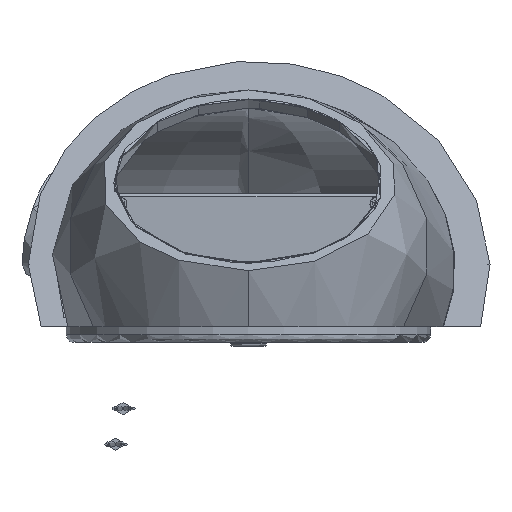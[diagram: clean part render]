
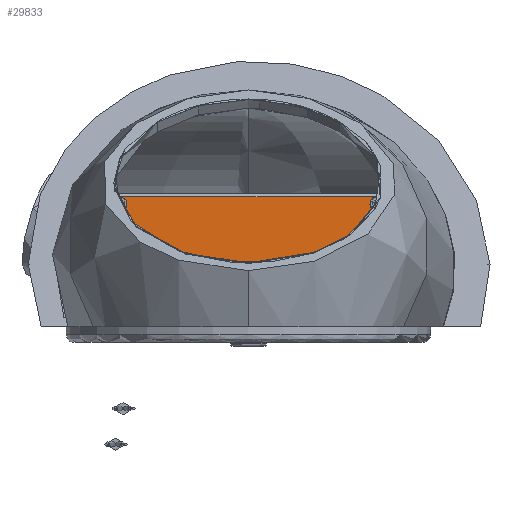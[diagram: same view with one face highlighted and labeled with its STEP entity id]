
A CAD part, front view. The second image highlights one B-rep face of the part: STEP entity #29833.
In plain terms, the highlighted planar face has unit normal (0, -1, 0) as drawn and (0, 1, 0) by its records, which use the part's own axes.
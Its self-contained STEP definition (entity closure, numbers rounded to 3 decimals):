
#2457 = DIRECTION ( 'NONE',  ( 1., 0., 0. ) ) ;
#3783 = ORIENTED_EDGE ( 'NONE', *, *, #50985, .T. ) ;
#3847 = CARTESIAN_POINT ( 'NONE',  ( 49.2, 3., -28.95 ) ) ;
#4608 = EDGE_LOOP ( 'NONE', ( #47868, #16635 ) ) ;
#5193 = CARTESIAN_POINT ( 'NONE',  ( -49.2, 3., 15.7 ) ) ;
#5206 = ORIENTED_EDGE ( 'NONE', *, *, #37421, .T. ) ;
#7113 = DIRECTION ( 'NONE',  ( 0., -1., 0. ) ) ;
#8227 = CARTESIAN_POINT ( 'NONE',  ( -49.2, 3., 18.45 ) ) ;
#8337 = EDGE_CURVE ( 'NONE', #26660, #24316, #9035, .T. ) ;
#8404 = DIRECTION ( 'NONE',  ( 0., -1., 0. ) ) ;
#8770 = CARTESIAN_POINT ( 'NONE',  ( 52., 3., -35.5 ) ) ;
#9035 = CIRCLE ( 'NONE', #64088, 2.75 ) ;
#9065 = AXIS2_PLACEMENT_3D ( 'NONE', #12046, #17118, #52179 ) ;
#10318 = VERTEX_POINT ( 'NONE', #3847 ) ;
#10381 = CARTESIAN_POINT ( 'NONE',  ( 52., 3., -35.5 ) ) ;
#10970 = VERTEX_POINT ( 'NONE', #16554 ) ;
#11658 = CARTESIAN_POINT ( 'NONE',  ( 51., 3., 17.5 ) ) ;
#12046 = CARTESIAN_POINT ( 'NONE',  ( 49.2, 3., -31.7 ) ) ;
#13308 = EDGE_CURVE ( 'NONE', #42536, #41153, #48973, .T. ) ;
#14285 = FACE_BOUND ( 'NONE', #24241, .T. ) ;
#14628 = DIRECTION ( 'NONE',  ( 0., 0., 1. ) ) ;
#15469 = CARTESIAN_POINT ( 'NONE',  ( -52., 3., 17.5 ) ) ;
#15654 = VERTEX_POINT ( 'NONE', #34004 ) ;
#15928 = LINE ( 'NONE', #8770, #60658 ) ;
#16332 = CARTESIAN_POINT ( 'NONE',  ( 51., 3., 18.5 ) ) ;
#16436 = CIRCLE ( 'NONE', #38618, 2.75 ) ;
#16473 = VERTEX_POINT ( 'NONE', #16332 ) ;
#16554 = CARTESIAN_POINT ( 'NONE',  ( 49.2, 3., 18.45 ) ) ;
#16635 = ORIENTED_EDGE ( 'NONE', *, *, #16799, .T. ) ;
#16665 = EDGE_CURVE ( 'NONE', #24316, #26660, #50300, .T. ) ;
#16799 = EDGE_CURVE ( 'NONE', #53370, #10318, #18868, .T. ) ;
#17118 = DIRECTION ( 'NONE',  ( 0., -1., 0. ) ) ;
#17152 = VERTEX_POINT ( 'NONE', #35309 ) ;
#17492 = ORIENTED_EDGE ( 'NONE', *, *, #28372, .T. ) ;
#18066 = ORIENTED_EDGE ( 'NONE', *, *, #22150, .T. ) ;
#18197 = CARTESIAN_POINT ( 'NONE',  ( -51., 3., 18.5 ) ) ;
#18416 = CARTESIAN_POINT ( 'NONE',  ( -51., 3., 17.5 ) ) ;
#18463 = CARTESIAN_POINT ( 'NONE',  ( 49.2, 3., -31.7 ) ) ;
#18831 = DIRECTION ( 'NONE',  ( 0., 0., -1. ) ) ;
#18868 = CIRCLE ( 'NONE', #30078, 2.75 ) ;
#20001 = DIRECTION ( 'NONE',  ( 0., -1., 0. ) ) ;
#20064 = DIRECTION ( 'NONE',  ( 0., 0., 1. ) ) ;
#21196 = AXIS2_PLACEMENT_3D ( 'NONE', #11658, #62526, #32226 ) ;
#22150 = EDGE_CURVE ( 'NONE', #15654, #10970, #16436, .T. ) ;
#23006 = EDGE_LOOP ( 'NONE', ( #34100, #40339 ) ) ;
#23500 = DIRECTION ( 'NONE',  ( 0., 0., 1. ) ) ;
#24198 = DIRECTION ( 'NONE',  ( 0., -1., 0. ) ) ;
#24241 = EDGE_LOOP ( 'NONE', ( #37154, #18066 ) ) ;
#24316 = VERTEX_POINT ( 'NONE', #55071 ) ;
#25045 = LINE ( 'NONE', #50137, #63478 ) ;
#25248 = CARTESIAN_POINT ( 'NONE',  ( 49.2, 3., 15.7 ) ) ;
#26411 = ORIENTED_EDGE ( 'NONE', *, *, #61064, .T. ) ;
#26552 = CARTESIAN_POINT ( 'NONE',  ( 51., 3., 18.5 ) ) ;
#26660 = VERTEX_POINT ( 'NONE', #37469 ) ;
#26791 = LINE ( 'NONE', #26552, #64482 ) ;
#27077 = CIRCLE ( 'NONE', #35630, 2.75 ) ;
#27499 = ORIENTED_EDGE ( 'NONE', *, *, #29140, .T. ) ;
#28353 = FACE_OUTER_BOUND ( 'NONE', #44318, .T. ) ;
#28372 = EDGE_CURVE ( 'NONE', #16473, #28905, #60726, .T. ) ;
#28636 = AXIS2_PLACEMENT_3D ( 'NONE', #42422, #32295, #63002 ) ;
#28905 = VERTEX_POINT ( 'NONE', #46749 ) ;
#29140 = EDGE_CURVE ( 'NONE', #28905, #43659, #15928, .T. ) ;
#29809 = EDGE_CURVE ( 'NONE', #41153, #16473, #26791, .T. ) ;
#29833 = ADVANCED_FACE ( 'NONE', ( #36992, #50357, #28353, #39387, #14285 ), #51781, .T. ) ;
#29855 = CARTESIAN_POINT ( 'NONE',  ( -49.2, 3., 15.7 ) ) ;
#29947 = AXIS2_PLACEMENT_3D ( 'NONE', #5193, #40265, #50356 ) ;
#30078 = AXIS2_PLACEMENT_3D ( 'NONE', #18463, #37763, #52907 ) ;
#30491 = DIRECTION ( 'NONE',  ( 0., 0., 1. ) ) ;
#30806 = AXIS2_PLACEMENT_3D ( 'NONE', #25248, #20001, #30491 ) ;
#30937 = AXIS2_PLACEMENT_3D ( 'NONE', #62347, #7113, #62567 ) ;
#31650 = CIRCLE ( 'NONE', #30806, 2.75 ) ;
#32226 = DIRECTION ( 'NONE',  ( 0., 0., 1. ) ) ;
#32295 = DIRECTION ( 'NONE',  ( 0., 1., 0. ) ) ;
#33720 = DIRECTION ( 'NONE',  ( 0., 0., 1. ) ) ;
#34004 = CARTESIAN_POINT ( 'NONE',  ( 49.2, 3., 12.95 ) ) ;
#34100 = ORIENTED_EDGE ( 'NONE', *, *, #16665, .T. ) ;
#35309 = CARTESIAN_POINT ( 'NONE',  ( -49.2, 3., 12.95 ) ) ;
#35630 = AXIS2_PLACEMENT_3D ( 'NONE', #29855, #40418, #50284 ) ;
#36992 = FACE_BOUND ( 'NONE', #4608, .T. ) ;
#37154 = ORIENTED_EDGE ( 'NONE', *, *, #53048, .T. ) ;
#37421 = EDGE_CURVE ( 'NONE', #40166, #42536, #25045, .T. ) ;
#37469 = CARTESIAN_POINT ( 'NONE',  ( -49.2, 3., -34.45 ) ) ;
#37763 = DIRECTION ( 'NONE',  ( 0., -1., 0. ) ) ;
#37964 = AXIS2_PLACEMENT_3D ( 'NONE', #18416, #58310, #33720 ) ;
#38618 = AXIS2_PLACEMENT_3D ( 'NONE', #53540, #8404, #23500 ) ;
#39387 = FACE_BOUND ( 'NONE', #23006, .T. ) ;
#40069 = CIRCLE ( 'NONE', #9065, 2.75 ) ;
#40166 = VERTEX_POINT ( 'NONE', #62312 ) ;
#40265 = DIRECTION ( 'NONE',  ( 0., -1., 0. ) ) ;
#40302 = CIRCLE ( 'NONE', #29947, 2.75 ) ;
#40339 = ORIENTED_EDGE ( 'NONE', *, *, #8337, .T. ) ;
#40418 = DIRECTION ( 'NONE',  ( 0., -1., 0. ) ) ;
#40992 = DIRECTION ( 'NONE',  ( -1., 0., 0. ) ) ;
#41153 = VERTEX_POINT ( 'NONE', #18197 ) ;
#42422 = CARTESIAN_POINT ( 'NONE',  ( 51., 3., 17.5 ) ) ;
#42536 = VERTEX_POINT ( 'NONE', #15469 ) ;
#43659 = VERTEX_POINT ( 'NONE', #10381 ) ;
#44318 = EDGE_LOOP ( 'NONE', ( #45078, #5206, #44951, #63716, #17492, #27499 ) ) ;
#44951 = ORIENTED_EDGE ( 'NONE', *, *, #13308, .T. ) ;
#45078 = ORIENTED_EDGE ( 'NONE', *, *, #50534, .T. ) ;
#45830 = CARTESIAN_POINT ( 'NONE',  ( -53., 3., -35.5 ) ) ;
#46749 = CARTESIAN_POINT ( 'NONE',  ( 52., 3., 17.5 ) ) ;
#47400 = LINE ( 'NONE', #45830, #54438 ) ;
#47868 = ORIENTED_EDGE ( 'NONE', *, *, #55997, .T. ) ;
#47955 = EDGE_LOOP ( 'NONE', ( #26411, #3783 ) ) ;
#48973 = CIRCLE ( 'NONE', #37964, 1. ) ;
#49534 = VERTEX_POINT ( 'NONE', #8227 ) ;
#50137 = CARTESIAN_POINT ( 'NONE',  ( -52., 3., 17.5 ) ) ;
#50284 = DIRECTION ( 'NONE',  ( 0., 0., 1. ) ) ;
#50300 = CIRCLE ( 'NONE', #30937, 2.75 ) ;
#50356 = DIRECTION ( 'NONE',  ( 0., 0., 1. ) ) ;
#50357 = FACE_BOUND ( 'NONE', #47955, .T. ) ;
#50534 = EDGE_CURVE ( 'NONE', #43659, #40166, #47400, .T. ) ;
#50985 = EDGE_CURVE ( 'NONE', #17152, #49534, #40302, .T. ) ;
#51781 = PLANE ( 'NONE',  #21196 ) ;
#52179 = DIRECTION ( 'NONE',  ( 0., 0., 1. ) ) ;
#52907 = DIRECTION ( 'NONE',  ( 0., 0., 1. ) ) ;
#53048 = EDGE_CURVE ( 'NONE', #10970, #15654, #31650, .T. ) ;
#53370 = VERTEX_POINT ( 'NONE', #63357 ) ;
#53540 = CARTESIAN_POINT ( 'NONE',  ( 49.2, 3., 15.7 ) ) ;
#54258 = CARTESIAN_POINT ( 'NONE',  ( -49.2, 3., -31.7 ) ) ;
#54438 = VECTOR ( 'NONE', #40992, 1000. ) ;
#55071 = CARTESIAN_POINT ( 'NONE',  ( -49.2, 3., -28.95 ) ) ;
#55997 = EDGE_CURVE ( 'NONE', #10318, #53370, #40069, .T. ) ;
#58310 = DIRECTION ( 'NONE',  ( 0., 1., 0. ) ) ;
#60658 = VECTOR ( 'NONE', #18831, 1000. ) ;
#60726 = CIRCLE ( 'NONE', #28636, 1. ) ;
#61064 = EDGE_CURVE ( 'NONE', #49534, #17152, #27077, .T. ) ;
#62312 = CARTESIAN_POINT ( 'NONE',  ( -52., 3., -35.5 ) ) ;
#62347 = CARTESIAN_POINT ( 'NONE',  ( -49.2, 3., -31.7 ) ) ;
#62526 = DIRECTION ( 'NONE',  ( 0., 1., 0. ) ) ;
#62567 = DIRECTION ( 'NONE',  ( 0., 0., 1. ) ) ;
#63002 = DIRECTION ( 'NONE',  ( 0., 0., 1. ) ) ;
#63357 = CARTESIAN_POINT ( 'NONE',  ( 49.2, 3., -34.45 ) ) ;
#63478 = VECTOR ( 'NONE', #14628, 1000. ) ;
#63716 = ORIENTED_EDGE ( 'NONE', *, *, #29809, .T. ) ;
#64088 = AXIS2_PLACEMENT_3D ( 'NONE', #54258, #24198, #20064 ) ;
#64482 = VECTOR ( 'NONE', #2457, 1000. ) ;
